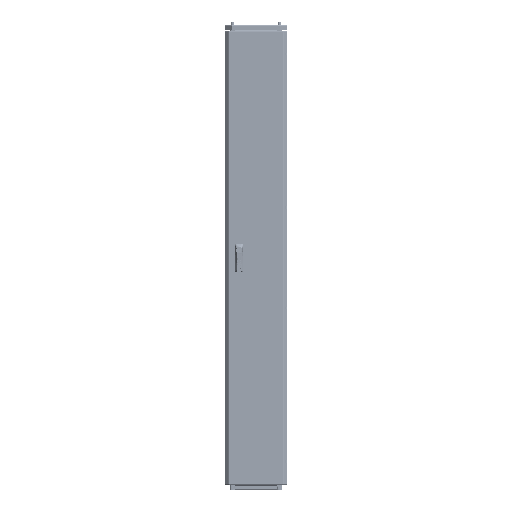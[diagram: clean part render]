
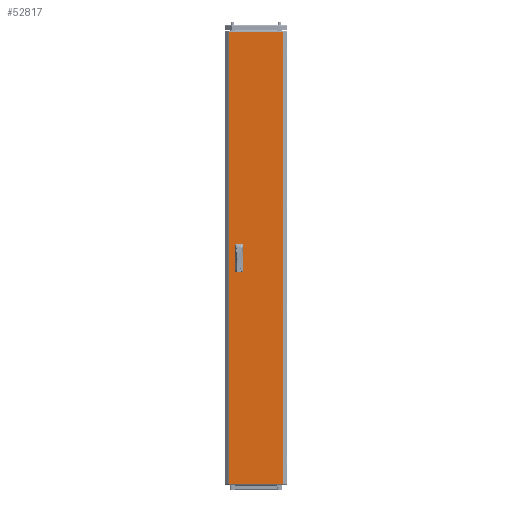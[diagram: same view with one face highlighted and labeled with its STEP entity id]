
A CAD part, top view. The second image highlights one B-rep face of the part: STEP entity #52817.
In plain terms, the highlighted planar face has unit normal (0, 0, 1).
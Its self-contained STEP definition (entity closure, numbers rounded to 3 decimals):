
#2027 = VECTOR ( 'NONE', #196084, 1000. ) ;
#4418 = CARTESIAN_POINT ( 'NONE',  ( -67.5, -12.5, 0. ) ) ;
#5002 = CARTESIAN_POINT ( 'NONE',  ( 127.875, -1069.5, 0. ) ) ;
#5878 = VERTEX_POINT ( 'NONE', #232656 ) ;
#7866 = VERTEX_POINT ( 'NONE', #4418 ) ;
#8476 = ORIENTED_EDGE ( 'NONE', *, *, #207384, .T. ) ;
#8637 = LINE ( 'NONE', #85133, #181816 ) ;
#14349 = CARTESIAN_POINT ( 'NONE',  ( -92.5, -62.5, 0. ) ) ;
#16625 = EDGE_CURVE ( 'NONE', #201147, #78267, #183788, .T. ) ;
#18619 = DIRECTION ( 'NONE',  ( 0., 1., 0. ) ) ;
#21371 = ORIENTED_EDGE ( 'NONE', *, *, #44452, .T. ) ;
#23370 = CARTESIAN_POINT ( 'NONE',  ( -92.5, -12.5, 0. ) ) ;
#24350 = VERTEX_POINT ( 'NONE', #14349 ) ;
#26718 = EDGE_CURVE ( 'NONE', #7866, #69710, #118677, .T. ) ;
#27727 = CARTESIAN_POINT ( 'NONE',  ( -92.5, -12.5, 0. ) ) ;
#33840 = DIRECTION ( 'NONE',  ( -1., 0., 0. ) ) ;
#33851 = ORIENTED_EDGE ( 'NONE', *, *, #224658, .T. ) ;
#37042 = CARTESIAN_POINT ( 'NONE',  ( -92.5, -62.5, 0. ) ) ;
#41783 = LINE ( 'NONE', #155962, #2027 ) ;
#42682 = LINE ( 'NONE', #234608, #209264 ) ;
#43829 = DIRECTION ( 'NONE',  ( 0., 1., 0. ) ) ;
#44452 = EDGE_CURVE ( 'NONE', #97896, #117771, #51438, .T. ) ;
#47576 = VERTEX_POINT ( 'NONE', #5002 ) ;
#51438 = LINE ( 'NONE', #127963, #53214 ) ;
#52817 = ADVANCED_FACE ( 'NONE', ( #136099, #78372, #188868 ), #210145, .F. ) ;
#53214 = VECTOR ( 'NONE', #33840, 1000. ) ;
#59886 = VECTOR ( 'NONE', #18619, 1000. ) ;
#61209 = VECTOR ( 'NONE', #226497, 1000. ) ;
#62731 = DIRECTION ( 'NONE',  ( 1., 0., 0. ) ) ;
#66220 = VERTEX_POINT ( 'NONE', #101200 ) ;
#66535 = EDGE_LOOP ( 'NONE', ( #82606, #200308, #139526, #127239 ) ) ;
#68577 = VECTOR ( 'NONE', #127400, 1000. ) ;
#69024 = EDGE_CURVE ( 'NONE', #5878, #66220, #186339, .T. ) ;
#69710 = VERTEX_POINT ( 'NONE', #27727 ) ;
#70179 = EDGE_CURVE ( 'NONE', #24350, #187495, #244081, .T. ) ;
#70965 = AXIS2_PLACEMENT_3D ( 'NONE', #190102, #187653, #93489 ) ;
#74097 = DIRECTION ( 'NONE',  ( -1., 0., 0. ) ) ;
#78267 = VERTEX_POINT ( 'NONE', #125505 ) ;
#78372 = FACE_BOUND ( 'NONE', #66535, .T. ) ;
#78846 = LINE ( 'NONE', #191793, #172001 ) ;
#82606 = ORIENTED_EDGE ( 'NONE', *, *, #26718, .F. ) ;
#84181 = LINE ( 'NONE', #160727, #96855 ) ;
#85133 = CARTESIAN_POINT ( 'NONE',  ( -67.5, -62.5, 0. ) ) ;
#85792 = EDGE_LOOP ( 'NONE', ( #8476, #21371, #96207, #33851 ) ) ;
#91381 = VECTOR ( 'NONE', #74097, 1000. ) ;
#92201 = CARTESIAN_POINT ( 'NONE',  ( -67.5, 12.5, 0. ) ) ;
#93489 = DIRECTION ( 'NONE',  ( -1., 0., 0. ) ) ;
#93902 = LINE ( 'NONE', #113953, #59886 ) ;
#96207 = ORIENTED_EDGE ( 'NONE', *, *, #181545, .T. ) ;
#96855 = VECTOR ( 'NONE', #218436, 1000. ) ;
#97896 = VERTEX_POINT ( 'NONE', #111920 ) ;
#101200 = CARTESIAN_POINT ( 'NONE',  ( -67.5, 62.5, 0. ) ) ;
#102811 = VECTOR ( 'NONE', #200133, 1000. ) ;
#103511 = CARTESIAN_POINT ( 'NONE',  ( -92.5, 12.5, 0. ) ) ;
#106487 = EDGE_LOOP ( 'NONE', ( #142308, #215411, #229219, #201519 ) ) ;
#109995 = CARTESIAN_POINT ( 'NONE',  ( -127.875, -1069.5, 0. ) ) ;
#111920 = CARTESIAN_POINT ( 'NONE',  ( 127.875, 1069.5, 0. ) ) ;
#111975 = CARTESIAN_POINT ( 'NONE',  ( -92.5, 62.5, 0. ) ) ;
#113953 = CARTESIAN_POINT ( 'NONE',  ( 127.875, -1069.5, 0. ) ) ;
#117771 = VERTEX_POINT ( 'NONE', #174863 ) ;
#118677 = LINE ( 'NONE', #23370, #159272 ) ;
#125505 = CARTESIAN_POINT ( 'NONE',  ( -92.5, 12.5, 0. ) ) ;
#127239 = ORIENTED_EDGE ( 'NONE', *, *, #185982, .F. ) ;
#127400 = DIRECTION ( 'NONE',  ( 0., 1., 0. ) ) ;
#127963 = CARTESIAN_POINT ( 'NONE',  ( -127.875, 1069.5, 0. ) ) ;
#128117 = LINE ( 'NONE', #224710, #91381 ) ;
#128365 = EDGE_CURVE ( 'NONE', #187495, #7866, #8637, .T. ) ;
#133972 = EDGE_CURVE ( 'NONE', #66220, #201147, #128117, .T. ) ;
#136099 = FACE_BOUND ( 'NONE', #106487, .T. ) ;
#139526 = ORIENTED_EDGE ( 'NONE', *, *, #70179, .F. ) ;
#142308 = ORIENTED_EDGE ( 'NONE', *, *, #133972, .F. ) ;
#151669 = DIRECTION ( 'NONE',  ( 0., -1., 0. ) ) ;
#155962 = CARTESIAN_POINT ( 'NONE',  ( -92.5, 12.5, 0. ) ) ;
#159272 = VECTOR ( 'NONE', #176392, 1000. ) ;
#160727 = CARTESIAN_POINT ( 'NONE',  ( -127.875, -1069.5, 0. ) ) ;
#172001 = VECTOR ( 'NONE', #151669, 1000. ) ;
#174863 = CARTESIAN_POINT ( 'NONE',  ( -127.875, 1069.5, 0. ) ) ;
#176392 = DIRECTION ( 'NONE',  ( -1., 0., 0. ) ) ;
#181545 = EDGE_CURVE ( 'NONE', #117771, #205178, #84181, .T. ) ;
#181816 = VECTOR ( 'NONE', #43829, 1000. ) ;
#183788 = LINE ( 'NONE', #103511, #102811 ) ;
#185982 = EDGE_CURVE ( 'NONE', #69710, #24350, #78846, .T. ) ;
#186339 = LINE ( 'NONE', #92201, #68577 ) ;
#187495 = VERTEX_POINT ( 'NONE', #187606 ) ;
#187606 = CARTESIAN_POINT ( 'NONE',  ( -67.5, -62.5, 0. ) ) ;
#187653 = DIRECTION ( 'NONE',  ( 0., 0., -1. ) ) ;
#188868 = FACE_OUTER_BOUND ( 'NONE', #85792, .T. ) ;
#190102 = CARTESIAN_POINT ( 'NONE',  ( 0., 0., 0. ) ) ;
#191793 = CARTESIAN_POINT ( 'NONE',  ( -92.5, -62.5, 0. ) ) ;
#196084 = DIRECTION ( 'NONE',  ( 1., 0., 0. ) ) ;
#200133 = DIRECTION ( 'NONE',  ( 0., -1., 0. ) ) ;
#200308 = ORIENTED_EDGE ( 'NONE', *, *, #128365, .F. ) ;
#201147 = VERTEX_POINT ( 'NONE', #111975 ) ;
#201519 = ORIENTED_EDGE ( 'NONE', *, *, #16625, .F. ) ;
#205178 = VERTEX_POINT ( 'NONE', #109995 ) ;
#207384 = EDGE_CURVE ( 'NONE', #47576, #97896, #93902, .T. ) ;
#209264 = VECTOR ( 'NONE', #62731, 1000. ) ;
#210145 = PLANE ( 'NONE',  #70965 ) ;
#215411 = ORIENTED_EDGE ( 'NONE', *, *, #69024, .F. ) ;
#218436 = DIRECTION ( 'NONE',  ( 0., -1., 0. ) ) ;
#224658 = EDGE_CURVE ( 'NONE', #205178, #47576, #42682, .T. ) ;
#224710 = CARTESIAN_POINT ( 'NONE',  ( -92.5, 62.5, 0. ) ) ;
#226497 = DIRECTION ( 'NONE',  ( 1., 0., 0. ) ) ;
#228808 = EDGE_CURVE ( 'NONE', #78267, #5878, #41783, .T. ) ;
#229219 = ORIENTED_EDGE ( 'NONE', *, *, #228808, .F. ) ;
#232656 = CARTESIAN_POINT ( 'NONE',  ( -67.5, 12.5, 0. ) ) ;
#234608 = CARTESIAN_POINT ( 'NONE',  ( -127.875, -1069.5, 0. ) ) ;
#244081 = LINE ( 'NONE', #37042, #61209 ) ;
